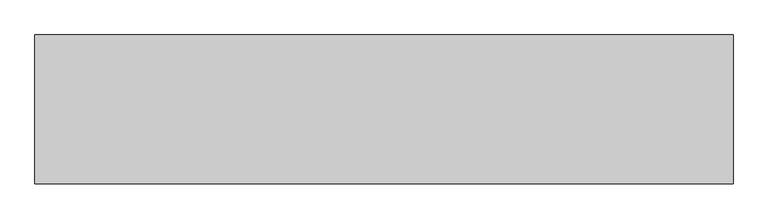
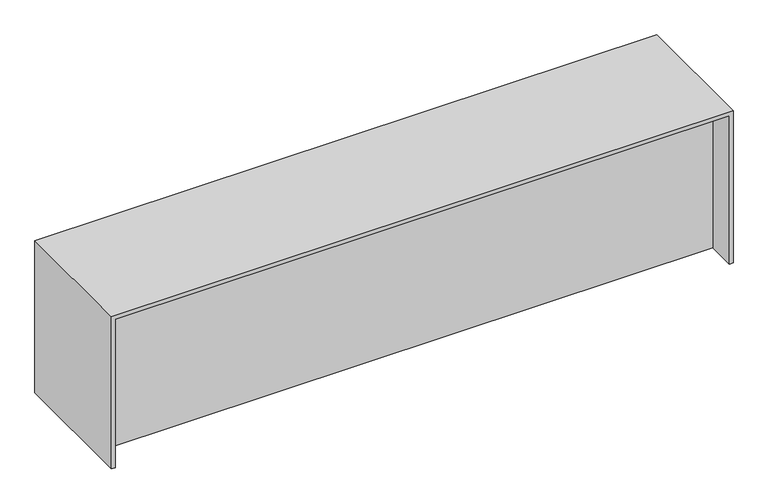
"""IFC4 building model written with IfcOpenShell, lengths in millimetres: furniture geometry, ILHA SALA 01 : ILHA SALA 01."""

from ifc_helpers import new_model, si_unit, frame, origin, place, context, project, spatial, polyline, outline, extrude, source, transform, mapped, element, save


def furniture_6b048b13(model_context):
    return source(origin(), model_context, "Body", "SweptSolid", [
        extrude(outline(polyline([(500.0, -10030.8479931), (500.0, -10010.8479931), (1330.0, -10010.8479931), (1330.0, -6764.8187891), (500.0, -6764.8187891), (500.0, -6744.8187891), (1350.0, -6744.8187891), (1350.0, -10030.8479931), (500.0, -10030.8479931)])), frame((0.0, 5569.9383105, 0.0), z_axis=(0.0, 1.0, 0.0), x_axis=(0.0, 0.0, 1.0)), (0.0, 0.0, 1.0), 700.0),
        extrude(outline(polyline([(-6764.8187891, 6169.9383105), (-6764.8187891, 5719.9383105), (-10010.8479931, 5719.9383105), (-10010.8479931, 6169.9383105), (-6764.8187891, 6169.9383105)])), frame((0.0, 0.0, 500.0), z_axis=(0.0, 0.0, 1.0), x_axis=(1.0, 0.0, 0.0)), (0.0, 0.0, 1.0), 830.0),
    ])


if __name__ == "__main__":
    model = new_model("IFC4")
    model_context = context("Model", 3, world=origin())
    ifc_project = project(units=[si_unit("LENGTHUNIT", "METRE", prefix="MILLI")], contexts=[model_context])
    site = spatial("IfcSite", under=ifc_project)
    building = spatial("IfcBuilding", under=site)
    placement = place(None, origin())
    furniture_shape = furniture_6b048b13(model_context)
    element("IfcFurniture", 1, ObjectType="ILHA SALA 01 : ILHA SALA 01", at=placement, inside=building, context=model_context, shape_type="MappedRepresentation", body=[
        mapped(furniture_shape, transform((0.0, 0.0, 0.0), x_axis=(1.0, 0.0, 0.0), y_axis=(0.0, 1.0, 0.0), z_axis=(0.0, 0.0, 1.0))),
    ])
    save(model, "model.ifc")
